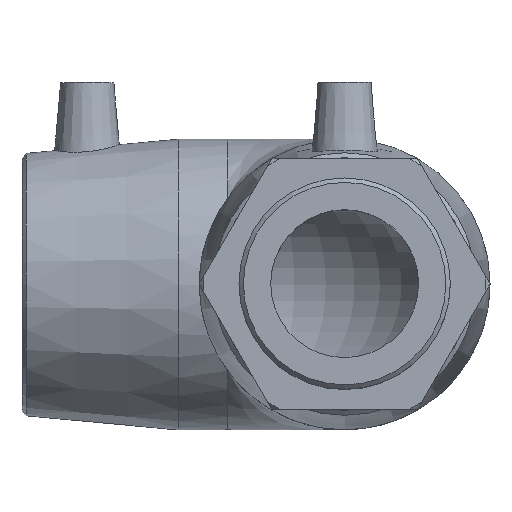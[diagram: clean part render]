
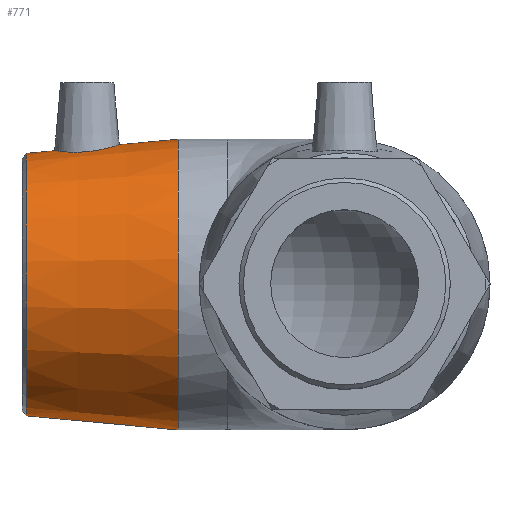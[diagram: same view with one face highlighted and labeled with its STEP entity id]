
A CAD part, top view. The second image highlights one B-rep face of the part: STEP entity #771.
In plain terms, the highlighted conical face has half-angle 5.324 degrees and reference radius 38.95 mm.
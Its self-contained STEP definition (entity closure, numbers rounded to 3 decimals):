
#17=B_SPLINE_CURVE_WITH_KNOTS('',3,(#1342,#1343,#1344,#1345,#1346,#1347,
#1348,#1349,#1350,#1351,#1352,#1353,#1354,#1355,#1356,#1357,#1358,#1359,
#1360,#1361,#1362,#1363,#1364,#1365,#1366,#1367,#1368,#1369,#1370,#1371,
#1372,#1373,#1374,#1375),.UNSPECIFIED.,.T.,.F.,(4,2,2,2,2,2,2,2,2,2,2,2,
2,2,2,2,4),(0.,0.339,0.679,1.02,1.362,
1.703,2.044,2.384,2.723,3.08,
3.437,3.788,4.139,4.49,4.841,
5.198,5.555),.UNSPECIFIED.);
#123=FACE_BOUND('',#248,.T.);
#124=FACE_BOUND('',#249,.T.);
#180=FACE_OUTER_BOUND('',#247,.T.);
#247=EDGE_LOOP('',(#642));
#248=EDGE_LOOP('',(#643));
#249=EDGE_LOOP('',(#644));
#333=CIRCLE('',#854,37.017);
#334=CIRCLE('',#856,41.);
#407=VERTEX_POINT('',#1336);
#408=VERTEX_POINT('',#1339);
#409=VERTEX_POINT('',#1341);
#501=EDGE_CURVE('',#407,#407,#333,.T.);
#502=EDGE_CURVE('',#408,#408,#334,.T.);
#503=EDGE_CURVE('',#409,#409,#17,.T.);
#642=ORIENTED_EDGE('',*,*,#502,.F.);
#643=ORIENTED_EDGE('',*,*,#503,.T.);
#644=ORIENTED_EDGE('',*,*,#501,.F.);
#738=CONICAL_SURFACE('',#855,38.95,5.324);
#771=ADVANCED_FACE('',(#180,#123,#124),#738,.T.);
#854=AXIS2_PLACEMENT_3D('',#1337,#1028,#1029);
#855=AXIS2_PLACEMENT_3D('',#1338,#1030,#1031);
#856=AXIS2_PLACEMENT_3D('',#1340,#1032,#1033);
#1028=DIRECTION('center_axis',(-1.,0.,0.));
#1029=DIRECTION('ref_axis',(0.,-1.,0.));
#1030=DIRECTION('center_axis',(1.,0.,0.));
#1031=DIRECTION('ref_axis',(0.,1.,0.));
#1032=DIRECTION('center_axis',(1.,0.,0.));
#1033=DIRECTION('ref_axis',(0.,0.,-1.));
#1336=CARTESIAN_POINT('',(-89.745,37.017,0.));
#1337=CARTESIAN_POINT('Origin',(-89.745,0.,0.));
#1338=CARTESIAN_POINT('Origin',(-69.,0.,0.));
#1339=CARTESIAN_POINT('',(-47.,41.,0.));
#1340=CARTESIAN_POINT('Origin',(-47.,0.,0.));
#1341=CARTESIAN_POINT('',(-72.877,37.475,9.204));
#1342=CARTESIAN_POINT('Ctrl Pts',(-72.877,37.475,9.204));
#1343=CARTESIAN_POINT('Ctrl Pts',(-74.004,37.373,9.179));
#1344=CARTESIAN_POINT('Ctrl Pts',(-75.204,37.322,8.927));
#1345=CARTESIAN_POINT('Ctrl Pts',(-77.403,37.33,7.962));
#1346=CARTESIAN_POINT('Ctrl Pts',(-78.402,37.386,7.249));
#1347=CARTESIAN_POINT('Ctrl Pts',(-79.977,37.517,5.62));
#1348=CARTESIAN_POINT('Ctrl Pts',(-80.659,37.601,4.594));
#1349=CARTESIAN_POINT('Ctrl Pts',(-81.562,37.723,2.352));
#1350=CARTESIAN_POINT('Ctrl Pts',(-81.783,37.759,1.138));
#1351=CARTESIAN_POINT('Ctrl Pts',(-81.783,37.759,-1.138));
#1352=CARTESIAN_POINT('Ctrl Pts',(-81.562,37.723,-2.352));
#1353=CARTESIAN_POINT('Ctrl Pts',(-80.659,37.601,-4.594));
#1354=CARTESIAN_POINT('Ctrl Pts',(-79.977,37.517,-5.62));
#1355=CARTESIAN_POINT('Ctrl Pts',(-78.402,37.386,-7.249));
#1356=CARTESIAN_POINT('Ctrl Pts',(-77.403,37.33,-7.962));
#1357=CARTESIAN_POINT('Ctrl Pts',(-75.204,37.322,-8.927));
#1358=CARTESIAN_POINT('Ctrl Pts',(-74.004,37.373,-9.179));
#1359=CARTESIAN_POINT('Ctrl Pts',(-71.693,37.582,-9.23));
#1360=CARTESIAN_POINT('Ctrl Pts',(-70.436,37.759,-9.011));
#1361=CARTESIAN_POINT('Ctrl Pts',(-68.133,38.189,-8.077));
#1362=CARTESIAN_POINT('Ctrl Pts',(-67.086,38.439,-7.363));
#1363=CARTESIAN_POINT('Ctrl Pts',(-65.448,38.871,-5.72));
#1364=CARTESIAN_POINT('Ctrl Pts',(-64.741,39.084,-4.687));
#1365=CARTESIAN_POINT('Ctrl Pts',(-63.799,39.377,-2.412));
#1366=CARTESIAN_POINT('Ctrl Pts',(-63.565,39.456,-1.169));
#1367=CARTESIAN_POINT('Ctrl Pts',(-63.565,39.456,1.169));
#1368=CARTESIAN_POINT('Ctrl Pts',(-63.799,39.377,2.412));
#1369=CARTESIAN_POINT('Ctrl Pts',(-64.741,39.084,4.687));
#1370=CARTESIAN_POINT('Ctrl Pts',(-65.448,38.871,5.72));
#1371=CARTESIAN_POINT('Ctrl Pts',(-67.086,38.439,7.363));
#1372=CARTESIAN_POINT('Ctrl Pts',(-68.133,38.189,8.077));
#1373=CARTESIAN_POINT('Ctrl Pts',(-70.436,37.759,9.011));
#1374=CARTESIAN_POINT('Ctrl Pts',(-71.693,37.582,9.23));
#1375=CARTESIAN_POINT('Ctrl Pts',(-72.877,37.475,9.204));
